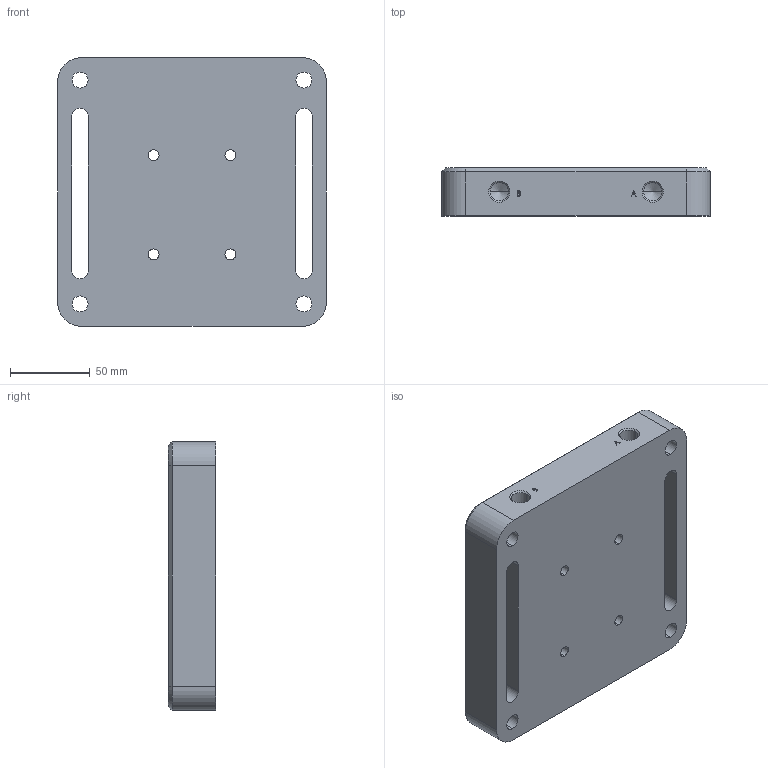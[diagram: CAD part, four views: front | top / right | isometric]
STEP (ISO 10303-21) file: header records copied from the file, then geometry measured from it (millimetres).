
FILE_DESCRIPTION (( 'STEP AP214' ), '1' );
FILE_NAME ('IFCC40-AP1.STEP', '2020-05-11T09:02:55', ( '' ), ( '' ), 'SwSTEP 2.0', 'SolidWorks 2014', '' );
FILE_SCHEMA (( 'AUTOMOTIVE_DESIGN' ));
Length unit declared in the file: millimetre
Products named in the file (1): IFCC40-AP1
Bounding box: 168 x 30 x 168 mm (x, y, z)
Volume: 507156.7 mm3; surface area: 97346.5 mm2
Topology: 1 solids, 1 shells, 113 faces, 287 edges, 179 vertices
Faces by surface type: plane 44, cylinder 36, cone 24, bspline 9
Entity records: 4071 total; most frequent: CARTESIAN_POINT 1135, DIRECTION 563, ORIENTED_EDGE 562, EDGE_CURVE 281, AXIS2_PLACEMENT_3D 195, VERTEX_POINT 179, LINE 173, VECTOR 173
